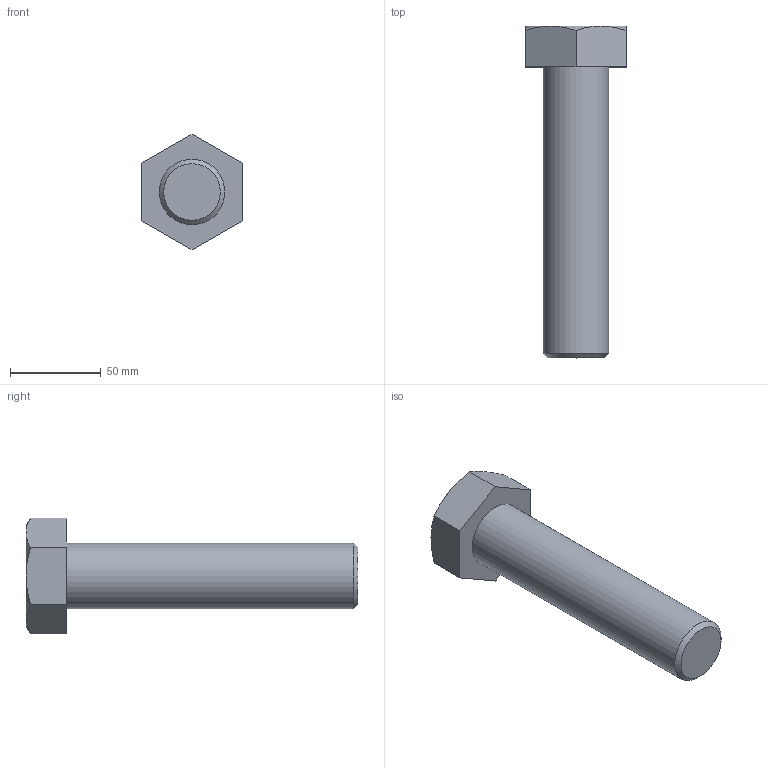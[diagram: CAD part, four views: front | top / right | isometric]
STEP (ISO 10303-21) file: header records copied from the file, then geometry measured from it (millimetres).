
FILE_DESCRIPTION(/* description */ (''),/* implementation_level */ '2;1');
FILE_NAME(/* name */ 'C:\Users\unitec\Documents\Inventor\各種小物\JIS\JIS B 1180 六角ボルト 等級C\hbc36\M36x160.stp',/* time_stamp */ '2015-02-13T14:56:41+09:00',/* author */ ('unitec'),/* organization */ (''),/* preprocessor_version */ 'ST-DEVELOPER v15.2',/* originating_system */ 'Autodesk Inventor 2014',/* authorisation */ '');
FILE_SCHEMA (('AUTOMOTIVE_DESIGN { 1 0 10303 214 3 1 1 }'));
Length unit declared in the file: millimetre
Products named in the file (1): M36x160
Bounding box: 55 x 182.5 x 63.51 mm (x, y, z)
Volume: 221299.4 mm3; surface area: 27328.9 mm2
Topology: 1 solids, 1 shells, 17 faces, 35 edges, 21 vertices
Faces by surface type: plane 9, cone 7, cylinder 1
Full cylindrical faces by diameter (mm): 36 x1
Entity records: 441 total; most frequent: CARTESIAN_POINT 96, ORIENTED_EDGE 66, DIRECTION 66, EDGE_CURVE 33, AXIS2_PLACEMENT_3D 27, VERTEX_POINT 21, EDGE_LOOP 20, ADVANCED_FACE 17
